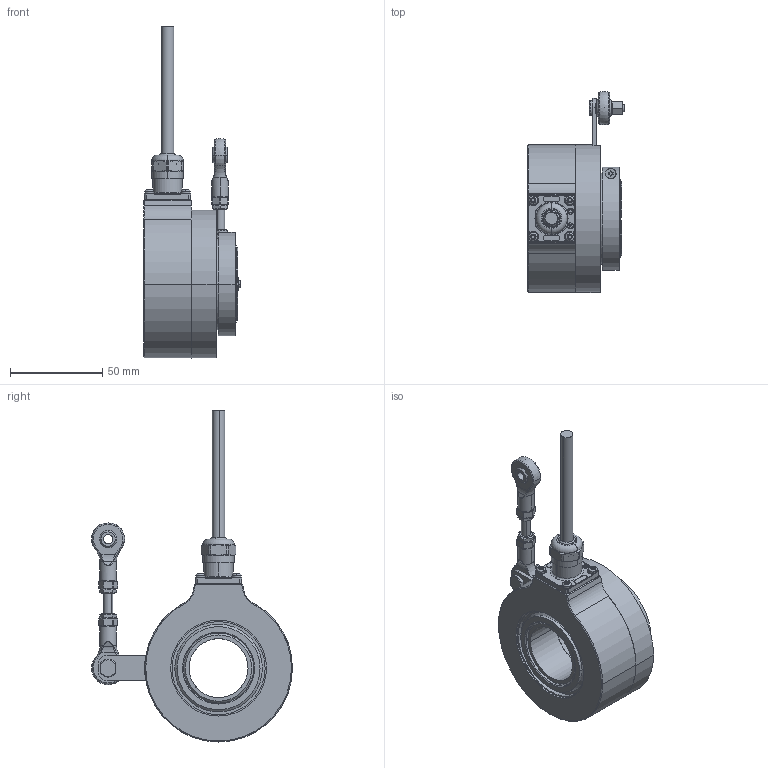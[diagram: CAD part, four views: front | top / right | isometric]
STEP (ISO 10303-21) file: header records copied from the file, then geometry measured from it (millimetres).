
FILE_DESCRIPTION (( 'STEP AP203' ), '1' );
FILE_NAME ('K80I.OXX.XXXXX.XH25832.6XR31.XXXX.step', '2025-12-09T11:18:47', ( '' ), ( '' ), 'SwSTEP 2.0', 'SolidWorks 2021', '' );
FILE_SCHEMA (( 'CONFIG_CONTROL_DESIGN' ));
Length unit declared in the file: millimetre
Products named in the file (1): K80I.OXX.XXXXX.XH25832.6XR31.XXXX
Bounding box: 52.6 x 108.97 x 180.07 mm (x, y, z)
Volume: 202020.9 mm3; surface area: 80324.4 mm2
Topology: 18 solids, 18 shells, 1003 faces, 2551 edges, 1585 vertices
Faces by surface type: plane 343, cylinder 341, cone 122, bspline 92, torus 75, sphere 30
Entity records: 33687 total; most frequent: CARTESIAN_POINT 9854, ORIENTED_EDGE 5026, DIRECTION 5014, EDGE_CURVE 2513, AXIS2_PLACEMENT_3D 1969, VERTEX_POINT 1581, VECTOR 1076, LINE 1076
